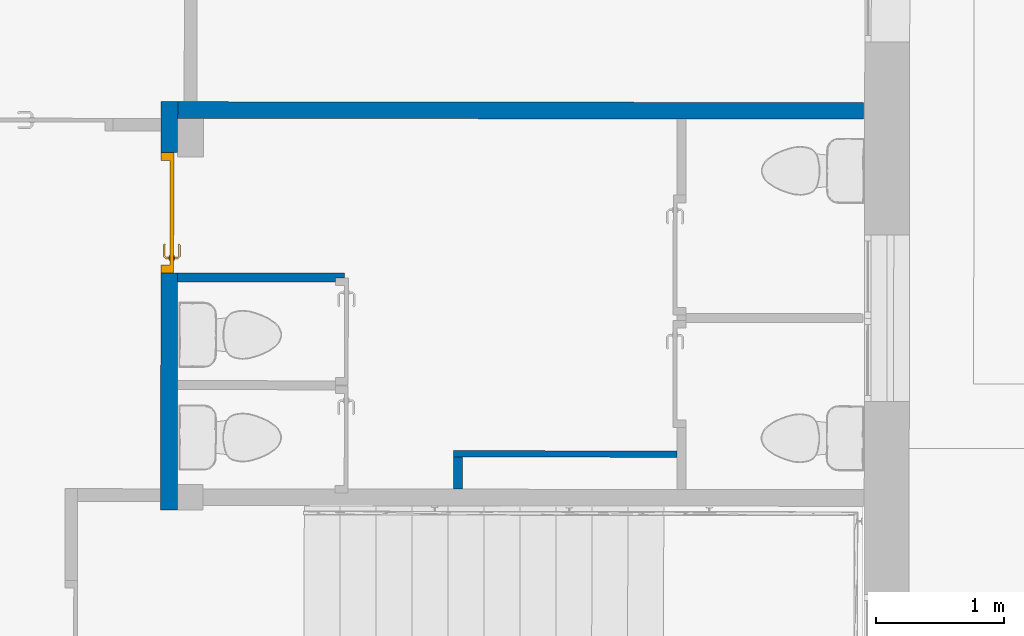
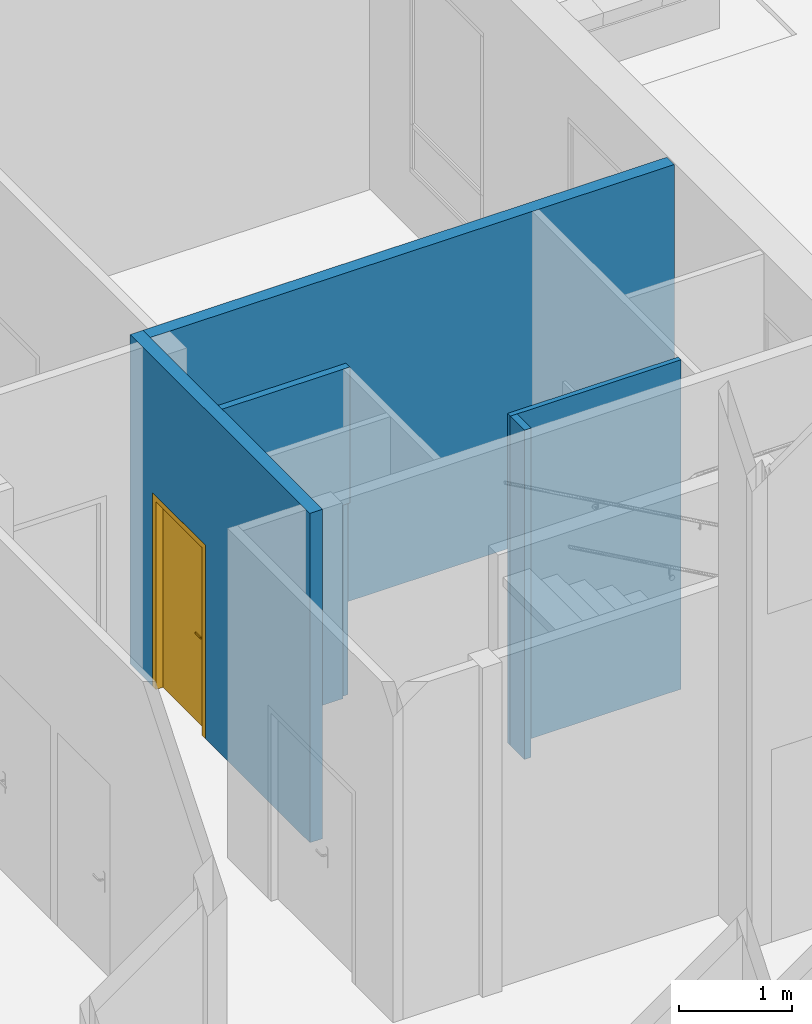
# One storey, part 53 of 101: 5 walls, 1 door, 2 openings.
"""IFC2X3 building model written with IfcOpenShell, lengths in metres."""

from ifc_helpers import new_model, entity, si_unit, converted_unit, derived_unit, direction, frame, frame_2d, origin, place, context, subcontext, project, spatial, rectangle, extrude, faceted_brep, source, transform, mapped, material, material_list, layer, layer_set, layer_usage, type_object, type_shapes, element, fill, save


model = new_model("IFC2X3")

# Units and contexts
model_context = context("Model", 3, precision=1e-05, world=origin(), true_north=direction((6.123233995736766e-17, 1.0)))
body_context = subcontext(model_context, "Body", "Model", "MODEL_VIEW")
ifc_project = project(units=[si_unit("LENGTHUNIT", "METRE"), si_unit("AREAUNIT", "SQUARE_METRE"), converted_unit("PLANEANGLEUNIT", "DEGREE", entity("IfcPlaneAngleMeasure", 0.017453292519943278), si_unit("PLANEANGLEUNIT", "RADIAN"), dimensions=[0, 0, 0, 0, 0, 0, 0]), derived_unit("THERMALTRANSMITTANCEUNIT", [(si_unit("MASSUNIT", "GRAM", prefix="KILO"), 1), (si_unit("THERMODYNAMICTEMPERATUREUNIT", "KELVIN"), -1), (si_unit("TIMEUNIT", "SECOND"), -3)])], contexts=[model_context])

# Site, building, storey
site_placement = place(None, frame((1253.6752467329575, 2072.143113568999, 91.49999999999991), z_axis=(0.0, 0.0, 1.0), x_axis=(0.7237211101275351, 0.6900925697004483, 0.0)))
site = spatial("IfcSite", under=ifc_project, at=site_placement, Name="Surface", CompositionType="ELEMENT")
building_placement = place(site_placement, origin())
building = spatial("IfcBuilding", under=site, at=building_placement, CompositionType="ELEMENT")
storey_placement = place(building_placement, origin())
storey = spatial("IfcBuildingStorey", under=building, at=storey_placement, Name="0- Rdc", CompositionType="ELEMENT", Elevation=-5.764692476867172e-13)

# Wall, opening, door
ifc_material_1 = material(Name="OMD_Béton blanc")
ifc_layer_1 = layer(ifc_material_1, 0.12999999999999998)
ifc_layer_set_1 = layer_set([ifc_layer_1], Name="Mur de base:MUR 13")
ifc_layer_usage_1 = layer_usage(ifc_layer_set_1, "AXIS2", "NEGATIVE", 0.06499999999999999)
wall_type_1 = type_object("IfcWallType", Name="Mur de base:MUR 13", PredefinedType="STANDARD", material=ifc_layer_set_1)
wall_1_placement = place(storey_placement, frame((157.98208986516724, 7.250670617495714, 0.0), z_axis=(0.0, 0.0, 1.0), x_axis=(0.6909838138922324, 0.7228702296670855, 0.0)))
wall_1 = element("IfcWallStandardCase", 1, at=wall_1_placement, inside=storey, type_object=wall_type_1, material=ifc_layer_usage_1, Name="Mur de base:MUR 13", ObjectType="Mur de base:MUR 13", context=body_context, shape_type="SweptSolid", body=[
    extrude(rectangle(XDim=3.1800000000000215, YDim=0.12999999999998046, at=frame_2d((1.5900000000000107, 1.9359513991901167e-15), x_axis=(-1.0, 0.0))), origin(), (0.0, 0.0, 1.0), 3.5499999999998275),
])
opening_1_placement = place(wall_1_placement, frame((2.7825000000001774, 0.06499999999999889, 0.0)))
opening_1 = element("IfcOpeningElement", 2, at=opening_1_placement, cuts=wall_1, Name="OMD_Porte 1V tunnel:80x204:1", ObjectType="Opening", context=body_context, shape_type="SweptSolid", body=[
    extrude(rectangle(XDim=2.0850000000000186, YDim=0.9349999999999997, at=frame_2d((1.0425000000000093, 0.46749999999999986), x_axis=(1.0, 0.0))), frame((0.0, 0.0, 0.0), z_axis=(0.0, -1.0, 0.0), x_axis=(0.0, 0.0, 1.0)), (0.0, 0.0, 1.0), 0.12999999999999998),
])
ifc_material_2 = material(Name="Porte - Poignée")
ifc_material_3 = material(Name="OMD_Peinture mur")
ifc_material_4 = material(Name="OMD_Bois")
ifc_material_list = material_list([ifc_material_2, ifc_material_3, ifc_material_4])
door_style = type_object("IfcDoorStyle", Name="OMD_Porte 1V tunnel:80x204", ConstructionType="NOTDEFINED", OperationType="NOTDEFINED", ParameterTakesPrecedence=False, Sizeable=False, material=ifc_material_list)
shared_shape = source(origin(), body_context, "Body", "Brep", [
    faceted_brep([(0.21297470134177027, 0.06500000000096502, 1.0077804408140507), (0.20900000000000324, 0.06500000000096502, 1.0069999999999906), (0.208999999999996, 0.06500000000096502, 0.9929999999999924), (0.21297470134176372, 0.06500000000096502, 0.9922195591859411), (0.21702529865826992, 0.06500000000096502, 0.9922195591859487), (0.22100000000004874, 0.06500000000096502, 0.9930000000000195), (0.22100000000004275, 0.06500000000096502, 1.0069999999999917), (0.2170252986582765, 0.06500000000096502, 1.007780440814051), (0.22100000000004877, 0.08748520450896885, 0.9930000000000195), (0.22100000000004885, 0.08748520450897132, 1.0069999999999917), (0.21702529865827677, 0.08913157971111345, 1.007780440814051), (0.23083890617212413, 0.10294518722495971, 1.007780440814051), (0.2291610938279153, 0.10699578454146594, 1.0077804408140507), (0.21297470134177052, 0.09080939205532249, 1.0077804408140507), (0.3206847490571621, 0.09646731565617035, 1.0077804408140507), (0.32354895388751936, 0.09933152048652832, 1.0077804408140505), (0.31588468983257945, 0.10699578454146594, 1.0077804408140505), (0.31420687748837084, 0.10294518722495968, 1.0077804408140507), (0.20900000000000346, 0.09245576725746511, 1.0069999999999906), (0.20900000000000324, 0.0924557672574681, 0.9929999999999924), (0.21297470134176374, 0.0908093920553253, 0.9922195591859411), (0.22916109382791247, 0.1069957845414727, 0.9922195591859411), (0.23083890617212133, 0.10294518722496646, 0.9922195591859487), (0.21702529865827, 0.08913157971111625, 0.9922195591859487), (0.32354895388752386, 0.09933152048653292, 0.9922195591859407), (0.3206847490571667, 0.09646731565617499, 0.9922195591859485), (0.3142068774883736, 0.10294518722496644, 0.9922195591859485), (0.3158846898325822, 0.10699578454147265, 0.9922195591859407), (0.23248528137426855, 0.09897048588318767, 0.9930000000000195), (0.23248528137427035, 0.09897048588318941, 1.0069999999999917), (0.22751471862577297, 0.11097048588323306, 1.0069999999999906), (0.22751471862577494, 0.1109704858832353, 0.9929999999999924), (0.2725228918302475, 0.09897048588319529, 0.9930000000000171), (0.3125605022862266, 0.09897048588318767, 0.9930000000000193), (0.31256050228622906, 0.09897048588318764, 1.0069999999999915), (0.2725228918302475, 0.09897048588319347, 1.0069999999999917), (0.2725228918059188, 0.10512492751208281, 1.0078781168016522), (0.31753106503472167, 0.11097048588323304, 1.0069999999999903), (0.2776005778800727, 0.11097048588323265, 1.0069999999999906), (0.31753106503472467, 0.11097048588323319, 0.9929999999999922), (0.2674452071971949, 0.11097048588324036, 0.9929999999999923), (0.2725228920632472, 0.10512492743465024, 0.9921218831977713), (0.317874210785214, 0.09365677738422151, 0.9930000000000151), (0.32635949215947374, 0.10214205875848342, 0.99299999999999), (0.3263594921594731, 0.10214205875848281, 1.0069999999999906), (0.317874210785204, 0.09365677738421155, 1.0069999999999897)], [[[0, 1, 2, 3, 4, 5, 6, 7]], [[6, 5, 8, 9]], [[9, 10, 7, 6]], [[10, 11, 12, 13, 0, 7]], [[14, 15, 16, 17]], [[13, 18, 1, 0]], [[2, 1, 18, 19]], [[19, 20, 3, 2]], [[20, 21, 22, 23, 4, 3]], [[24, 25, 26, 27]], [[23, 8, 5, 4]], [[9, 8, 28, 29]], [[29, 11, 10, 9]], [[12, 30, 18, 13]], [[19, 18, 30, 31]], [[31, 21, 20, 19]], [[22, 28, 8, 23]], [[29, 28, 32, 33, 34, 35]], [[11, 35, 36]], [[16, 37, 38]], [[30, 12, 38]], [[38, 12, 36]], [[36, 35, 17]], [[17, 16, 36]], [[35, 11, 29]], [[34, 17, 35]], [[11, 36, 12]], [[38, 36, 16]], [[31, 30, 38, 37, 39, 40]], [[40, 41, 21]], [[41, 40, 27]], [[21, 31, 40]], [[39, 27, 40]], [[41, 32, 22]], [[22, 21, 41]], [[26, 32, 41]], [[28, 22, 32]], [[32, 26, 33]], [[26, 41, 27]], [[42, 25, 24, 43, 44, 15, 14, 45]], [[34, 33, 42, 45]], [[45, 14, 17, 34]], [[15, 44, 37, 16]], [[39, 37, 44, 43]], [[43, 24, 27, 39]], [[25, 42, 33, 26]]]),
    faceted_brep([(0.21297470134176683, 0.02500000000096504, 1.0077804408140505), (0.2170252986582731, 0.02500000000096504, 1.007780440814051), (0.2210000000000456, 0.02500000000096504, 1.006999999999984), (0.22100000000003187, 0.02500000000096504, 0.9930000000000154), (0.21702529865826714, 0.02500000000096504, 0.9922195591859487), (0.21297470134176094, 0.02500000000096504, 0.992219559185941), (0.20900000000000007, 0.02500000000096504, 0.992999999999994), (0.20900000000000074, 0.02500000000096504, 1.0069999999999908), (0.20900000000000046, -0.0026509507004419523, 1.0069999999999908), (0.21297470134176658, -0.0010045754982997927, 1.0077804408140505), (0.22902358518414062, -0.017053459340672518, 1.0077804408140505), (0.2307013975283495, -0.013002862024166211, 1.007780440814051), (0.21702529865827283, 0.0006732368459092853, 1.007780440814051), (0.3235218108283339, -0.009389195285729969, 1.0077804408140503), (0.3206576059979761, -0.006524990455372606, 1.0077804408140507), (0.3141797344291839, -0.013002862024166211, 1.0077804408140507), (0.31585754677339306, -0.017053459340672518, 1.0077804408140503), (0.22100000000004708, 0.002319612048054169, 1.0069999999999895), (0.22100000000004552, 0.0023196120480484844, 0.9930000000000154), (0.21702529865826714, 0.0006732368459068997, 0.9922195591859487), (0.23070139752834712, -0.013002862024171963, 0.9922195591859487), (0.2290235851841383, -0.017053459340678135, 0.992219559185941), (0.21297470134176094, -0.0010045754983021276, 0.992219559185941), (0.32065760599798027, -0.0065249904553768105, 0.9922195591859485), (0.3235218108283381, -0.009389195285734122, 0.9922195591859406), (0.31585754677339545, -0.017053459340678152, 0.9922195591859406), (0.3141797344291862, -0.013002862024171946, 0.9922195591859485), (0.20899999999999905, -0.002650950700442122, 0.9929999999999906), (0.22737720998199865, -0.02102816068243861, 1.0069999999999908), (0.23234777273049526, -0.009028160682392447, 1.0069999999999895), (0.23234777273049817, -0.009028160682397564, 0.9930000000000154), (0.22737720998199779, -0.02102816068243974, 0.9929999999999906), (0.2673076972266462, -0.021028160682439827, 1.0069999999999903), (0.272440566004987, -0.01518280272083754, 1.0078781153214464), (0.3175039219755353, -0.021028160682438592, 1.0069999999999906), (0.27244056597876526, -0.009028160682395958, 1.0069999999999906), (0.3125333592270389, -0.009028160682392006, 1.0069999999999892), (0.31253335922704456, -0.009028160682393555, 0.9930000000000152), (0.27244056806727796, -0.00902816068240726, 0.9930000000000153), (0.27244056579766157, -0.015182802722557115, 0.9921218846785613), (0.3175039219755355, -0.02102816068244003, 0.9929999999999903), (0.27757344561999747, -0.021028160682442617, 0.9929999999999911), (0.3178470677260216, -0.0037144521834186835, 1.0069999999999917), (0.3263323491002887, -0.012199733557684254, 1.0069999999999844), (0.3263323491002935, -0.012199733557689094, 0.9929999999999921), (0.31784706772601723, -0.003714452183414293, 0.9930000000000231)], [[[0, 1, 2, 3, 4, 5, 6, 7]], [[8, 9, 0, 7]], [[9, 10, 11, 12, 1, 0]], [[13, 14, 15, 16]], [[12, 17, 2, 1]], [[3, 2, 17, 18]], [[18, 19, 4, 3]], [[19, 20, 21, 22, 5, 4]], [[23, 24, 25, 26]], [[22, 27, 6, 5]], [[7, 6, 27, 8]], [[28, 10, 9, 8]], [[11, 29, 17, 12]], [[18, 17, 29, 30]], [[30, 20, 19, 18]], [[21, 31, 27, 22]], [[8, 27, 31, 28]], [[32, 33, 10]], [[33, 32, 16]], [[10, 28, 32]], [[34, 16, 32]], [[33, 35, 11]], [[11, 10, 33]], [[15, 35, 33]], [[29, 11, 35]], [[35, 15, 36]], [[15, 33, 16]], [[30, 29, 35, 36, 37, 38]], [[20, 38, 39]], [[25, 40, 41]], [[31, 21, 41]], [[41, 21, 39]], [[39, 38, 26]], [[26, 25, 39]], [[38, 20, 30]], [[37, 26, 38]], [[20, 39, 21]], [[41, 39, 25]], [[28, 31, 41, 40, 34, 32]], [[42, 14, 13, 43, 44, 24, 23, 45]], [[43, 13, 16, 34]], [[14, 42, 36, 15]], [[37, 36, 42, 45]], [[45, 23, 26, 37]], [[24, 44, 40, 25]], [[34, 40, 44, 43]]]),
    faceted_brep([(0.22535276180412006, 0.06000000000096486, 0.8660039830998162), (0.2350000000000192, 0.06000000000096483, 0.8700000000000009), (0.2350000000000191, 0.06000000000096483, 1.0800000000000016), (0.2253527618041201, 0.06000000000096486, 1.0839960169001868), (0.21500000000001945, 0.06000000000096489, 1.0853589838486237), (0.20464723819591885, 0.06000000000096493, 1.0839960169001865), (0.19500000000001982, 0.06000000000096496, 1.0800000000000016), (0.19500000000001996, 0.06000000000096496, 0.8700000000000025), (0.20464723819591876, 0.06000000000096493, 0.866003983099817), (0.21500000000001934, 0.06000000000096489, 0.8646410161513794), (0.22535276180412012, 0.06500000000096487, 1.0839960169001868), (0.2350000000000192, 0.06500000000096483, 1.0800000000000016), (0.23500000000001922, 0.06500000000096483, 0.8700000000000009), (0.22535276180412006, 0.06500000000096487, 0.8660039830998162), (0.21500000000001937, 0.0650000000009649, 0.8646410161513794), (0.20464723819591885, 0.06500000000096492, 0.866003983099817), (0.19500000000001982, 0.06500000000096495, 0.8700000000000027), (0.19500000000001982, 0.06500000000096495, 1.0800000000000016), (0.20464723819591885, 0.06500000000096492, 1.0839960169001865), (0.21500000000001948, 0.0650000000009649, 1.0853589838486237)], [[[0, 1, 2, 3, 4, 5, 6, 7, 8, 9]], [[10, 11, 12, 13, 14, 15, 16, 17, 18, 19]], [[11, 10, 3, 2]], [[3, 10, 19, 4]], [[19, 18, 5, 4]], [[18, 17, 6, 5]], [[7, 6, 17, 16]], [[16, 15, 8, 7]], [[8, 15, 14, 9]], [[14, 13, 0, 9]], [[13, 12, 1, 0]], [[2, 1, 12, 11]]]),
    faceted_brep([(0.22535276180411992, 0.02500000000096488, 0.8660039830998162), (0.2350000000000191, 0.025000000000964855, 0.8700000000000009), (0.23500000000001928, 0.025000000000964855, 1.0800000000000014), (0.22535276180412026, 0.02500000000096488, 1.0839960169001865), (0.2150000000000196, 0.025000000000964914, 1.0853589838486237), (0.20464723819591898, 0.025000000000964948, 1.0839960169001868), (0.19500000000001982, 0.02500000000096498, 1.0800000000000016), (0.19500000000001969, 0.02500000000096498, 0.8700000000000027), (0.20464723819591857, 0.025000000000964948, 0.8660039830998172), (0.21500000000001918, 0.025000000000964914, 0.8646410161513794), (0.22535276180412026, 0.03000000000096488, 1.0839960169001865), (0.2350000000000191, 0.030000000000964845, 1.0800000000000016), (0.2350000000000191, 0.030000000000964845, 0.8700000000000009), (0.22535276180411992, 0.03000000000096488, 0.8660039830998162), (0.21500000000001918, 0.030000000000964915, 0.8646410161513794), (0.20464723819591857, 0.030000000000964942, 0.8660039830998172), (0.19500000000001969, 0.030000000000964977, 0.8700000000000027), (0.19500000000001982, 0.030000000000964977, 1.0800000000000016), (0.20464723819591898, 0.030000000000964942, 1.0839960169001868), (0.2150000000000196, 0.030000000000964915, 1.0853589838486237)], [[[0, 1, 2, 3, 4, 5, 6, 7, 8, 9]], [[10, 11, 12, 13, 14, 15, 16, 17, 18, 19]], [[16, 15, 8, 7]], [[8, 15, 14, 9]], [[14, 13, 0, 9]], [[13, 12, 1, 0]], [[2, 1, 12, 11]], [[11, 10, 3, 2]], [[3, 10, 19, 4]], [[19, 18, 5, 4]], [[18, 17, 6, 5]], [[7, 6, 17, 16]]]),
    faceted_brep([(0.14500000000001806, 0.060000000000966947, 0.0), (0.9900000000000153, 0.060000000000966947, 0.0), (0.9900000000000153, 0.030000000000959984, 0.0), (0.14500000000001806, 0.030000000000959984, 0.0), (0.14500000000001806, 0.060000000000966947, 2.04), (0.14500000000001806, 0.030000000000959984, 2.04), (0.9900000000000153, 0.030000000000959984, 2.04), (0.9900000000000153, 0.060000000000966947, 2.04)], [[[0, 1, 2, 3]], [[4, 0, 3, 5]], [[5, 3, 2, 6]], [[6, 2, 1, 7]], [[7, 1, 0, 4]], [[4, 5, 6, 7]]]),
    faceted_brep([(0.10000000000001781, 0.030000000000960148, 0.0), (0.10000000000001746, 0.13000000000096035, 0.0), (0.1600000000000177, 0.13000000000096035, 0.0), (0.1600000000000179, 0.06000000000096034, 0.0), (0.14500000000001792, 0.06000000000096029, 0.0), (0.14500000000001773, 0.030000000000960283, 0.0), (0.1450000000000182, 0.0300000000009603, 2.0399999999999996), (0.9900000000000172, 0.03000000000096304, 2.0399999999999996), (0.9900000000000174, 0.030000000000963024, 0.0), (1.0350000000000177, 0.030000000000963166, 0.0), (1.0350000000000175, 0.030000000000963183, 2.085), (0.10000000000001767, 0.030000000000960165, 2.0850000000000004), (0.14500000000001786, 0.06000000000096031, 2.0399999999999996), (0.16000000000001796, 0.06000000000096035, 2.025), (0.9750000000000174, 0.06000000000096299, 2.025), (0.9750000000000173, 0.06000000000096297, 0.0), (0.9900000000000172, 0.06000000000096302, 0.0), (0.9900000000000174, 0.06000000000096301, 2.0399999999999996), (0.16000000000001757, 0.13000000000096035, 2.025), (0.10000000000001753, 0.13000000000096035, 2.085), (1.0350000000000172, 0.13000000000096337, 2.085), (1.0350000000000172, 0.13000000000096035, 0.0), (0.9750000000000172, 0.13000000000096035, 0.0), (0.9750000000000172, 0.13000000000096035, 2.025)], [[[0, 1, 2, 3, 4, 5]], [[5, 6, 7, 8, 9, 10, 11, 0]], [[4, 12, 6, 5]], [[3, 13, 14, 15, 16, 17, 12, 4]], [[2, 18, 13, 3]], [[1, 19, 20, 21, 22, 23, 18, 2]], [[0, 11, 19, 1]], [[10, 9, 21, 20]], [[9, 8, 16, 15, 22, 21]], [[17, 16, 8, 7]], [[23, 22, 15, 14]], [[12, 17, 7, 6]], [[18, 23, 14, 13]], [[11, 10, 20, 19]]]),
])
type_shapes(door_style, [shared_shape])
door_placement = place(opening_1_placement, frame((-1.0350000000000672, -0.12999999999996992, 0.0)))
door = element("IfcDoor", 3, at=door_placement, inside=storey, type_object=door_style, material=ifc_material_list, Name="OMD_Porte 1V tunnel:80x204", ObjectType="OMD_Porte 1V tunnel:80x204", OverallHeight=2.0850000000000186, OverallWidth=0.9350000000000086, context=body_context, shape_type="MappedRepresentation", body=[
    mapped(shared_shape, transform((0.0, 0.0, 0.0), scale=1.0)),
])
fill(opening_1, door)

# Walls
ifc_layer_usage_2 = layer_usage(ifc_layer_set_1, "AXIS2", "NEGATIVE", 0.06499999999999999)
wall_2_placement = place(storey_placement, frame((160.18149101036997, 9.457497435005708, 0.0), z_axis=(0.0, 0.0, 1.0), x_axis=(0.7228702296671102, -0.6909838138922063, 0.0)))
element("IfcWallStandardCase", 4, at=wall_2_placement, inside=storey, type_object=wall_type_1, material=ifc_layer_usage_2, Name="Mur de base:MUR 13", ObjectType="Mur de base:MUR 13", context=body_context, shape_type="SweptSolid", body=[
    extrude(rectangle(XDim=5.3399999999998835, YDim=0.12999999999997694, at=frame_2d((2.6699999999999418, 2.42861286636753e-16), x_axis=(-1.0, 0.0))), origin(), (0.0, 0.0, 1.0), 3.5499999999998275),
])
ifc_layer_2 = layer(ifc_material_1, 0.05)
ifc_layer_set_2 = layer_set([ifc_layer_2], Name="Mur de base:MUR 5")
ifc_layer_usage_3 = layer_usage(ifc_layer_set_2, "AXIS2", "NEGATIVE", 0.025)
wall_type_2 = type_object("IfcWallType", Name="Mur de base:MUR 5", PredefinedType="STANDARD", material=ifc_layer_set_2)
wall_3_placement = place(storey_placement, frame((159.8872803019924, 6.038204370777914, 0.0), z_axis=(0.0, 0.0, 1.0), x_axis=(0.7228702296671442, -0.6909838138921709, 0.0)))
element("IfcWallStandardCase", 5, at=wall_3_placement, inside=storey, type_object=wall_type_2, material=ifc_layer_usage_3, Name="Mur de base:MUR 5", ObjectType="Mur de base:MUR 5", context=body_context, shape_type="SweptSolid", body=[
    extrude(rectangle(XDim=1.7400000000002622, YDim=0.050000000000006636, at=frame_2d((0.8700000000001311, -1.8596235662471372e-15), x_axis=(-1.0, 0.0))), origin(), (0.0, 0.0, 1.0), 3.5499999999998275),
])

# Wall, opening
ifc_layer_3 = layer(ifc_material_1, 0.07)
ifc_layer_set_3 = layer_set([ifc_layer_3], Name="Mur de base:MUR 7")
ifc_layer_usage_4 = layer_usage(ifc_layer_set_3, "AXIS2", "NEGATIVE", 0.035)
wall_type_3 = type_object("IfcWallType", Name="Mur de base:MUR 7", PredefinedType="STANDARD", material=ifc_layer_set_3)
wall_4_placement = place(storey_placement, frame((159.2814845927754, 8.515958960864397, 0.0), z_axis=(0.0, 0.0, 1.0), x_axis=(0.7228702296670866, -0.6909838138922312, 0.0)))
wall_4 = element("IfcWallStandardCase", 6, at=wall_4_placement, inside=storey, type_object=wall_type_3, material=ifc_layer_usage_4, Name="Mur de base:MUR 7", ObjectType="Mur de base:MUR 7", context=body_context, shape_type="SweptSolid", body=[
    extrude(rectangle(XDim=1.299999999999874, YDim=0.06999999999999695, at=frame_2d((0.649999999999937, -2.2516710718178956e-15), x_axis=(-1.0, 0.0))), origin(), (0.0, 0.0, 1.0), 3.5499999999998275),
])
opening_2_placement = place(wall_4_placement, frame((-109.25545354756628, -116.21686091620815, 0.0)))
element("IfcOpeningElement", 7, at=opening_2_placement, cuts=wall_4, Name="Mur de base:MUR 7", ObjectType="Opening", context=body_context, shape_type="SweptSolid", body=[
    extrude(rectangle(XDim=2.0850000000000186, YDim=0.07000000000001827, at=frame_2d((1.8138268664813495e-14, 1.1102230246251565e-16), x_axis=(0.0, 1.0))), frame((110.52045354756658, 115.37936091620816, 1.0425000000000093), z_axis=(0.0, 1.0, 0.0), x_axis=(-1.0, 0.0, 0.0)), (0.0, 0.0, 1.0), 0.8349999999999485),
])

# Wall
ifc_layer_usage_5 = layer_usage(ifc_layer_set_3, "AXIS2", "NEGATIVE", 0.035)
wall_5_placement = place(storey_placement, frame((159.72256021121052, 5.815230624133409, 0.0), z_axis=(0.0, 0.0, 1.0), x_axis=(0.6909838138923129, 0.7228702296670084, 0.0)))
element("IfcWallStandardCase", 8, at=wall_5_placement, inside=storey, type_object=wall_type_3, material=ifc_layer_usage_5, Name="Mur de base:MUR 7", ObjectType="Mur de base:MUR 7", context=body_context, shape_type="SweptSolid", body=[
    extrude(rectangle(XDim=0.24999999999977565, YDim=0.07000000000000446, at=frame_2d((0.12499999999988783, 2.168404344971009e-15), x_axis=(-1.0, 0.0))), origin(), (0.0, 0.0, 1.0), 3.5499999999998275),
])

save(model, "model.ifc")
